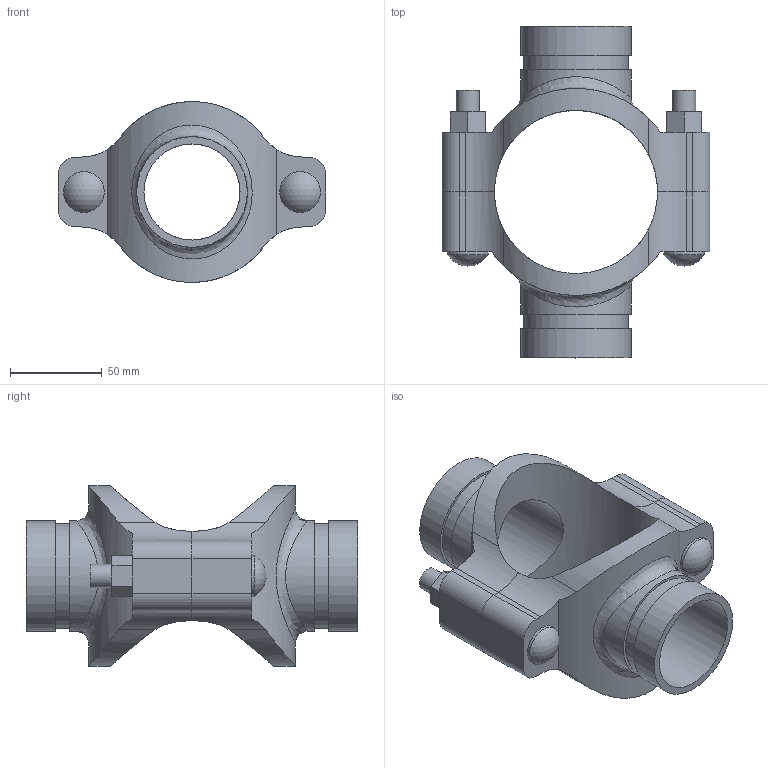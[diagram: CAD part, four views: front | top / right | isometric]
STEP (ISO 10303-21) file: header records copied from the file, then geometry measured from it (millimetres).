
FILE_DESCRIPTION(/* description */ ('VIC MECH-T BRANCH OUTLET CROSS STYLE 920N (GRVD)','CAx-IF Rec.Pracs.---Representation and Presentation of Product Manufacturing Information (PMI)---4.0---2014-10-13'),/* implementation_level */ '2;1');
FILE_NAME(/* name */ 'C:\Users\Vjadhav\AppData\Roaming\Autodesk\ApplicationPlugins\Back Up\Victaulic_IPS_Mechanical-Cross Outlet_Style 920N (OGS)\Victaulic_IPS_Mechanical-Cross Outlet_03.0x02.0x02.0 (80x50x50).stp',/* time_stamp */ '2020-08-06T19:43:33+05:00',/* author */ ('Vjadhav'),/* organization */ ('Victaulic'),/* preprocessor_version */ 'ST-DEVELOPER v17.2',/* originating_system */ 'Autodesk Inventor 2019',/* authorisation */ '');
FILE_SCHEMA (('AP242_MANAGED_MODEL_BASED_3D_ENGINEERING_MIM_LF { 1 0 10303 442 1 1 4 }'));
Length unit declared in the file: inch
Products named in the file (3): 920NG-03.0x02.0x02.0; 920NG-03.0x02.0; 920NG-03.0x02.0_1
Assembly tree (2 placements, depth 2):
  920NG-03.0x02.0x02.0
    920NG-03.0x02.0
    920NG-03.0x02.0_1
Bounding box: 146.05 x 180.85 x 98.49 mm (x, y, z)
Volume: 350293.2 mm3; surface area: 102294.8 mm2
Topology: 2 solids, 2 shells, 104 faces, 262 edges, 178 vertices
Faces by surface type: plane 54, cylinder 46, sphere 2, bspline 2
Full cylindrical faces by diameter (mm): 12.7 x4, 22.225 x2, 52.387 x2, 57.15 x2, 60.325 x4
Entity records: 4142 total; most frequent: CARTESIAN_POINT 1369, DIRECTION 532, ORIENTED_EDGE 524, EDGE_CURVE 262, AXIS2_PLACEMENT_3D 193, VERTEX_POINT 178, LINE 146, VECTOR 146
